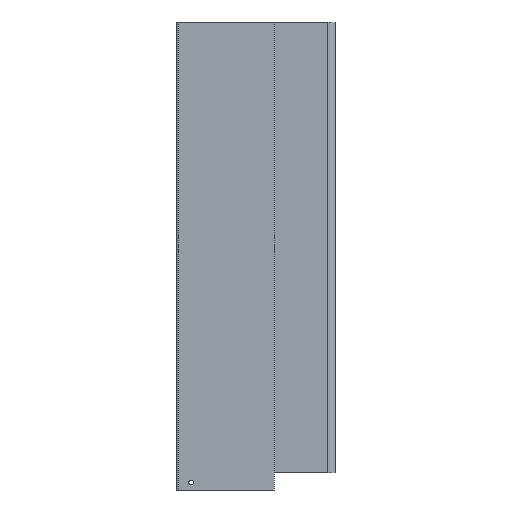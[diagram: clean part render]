
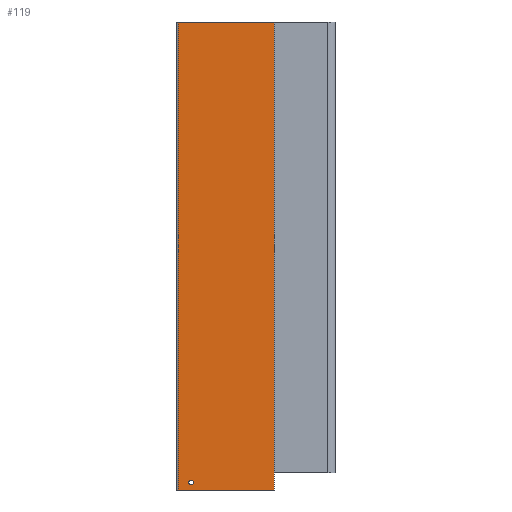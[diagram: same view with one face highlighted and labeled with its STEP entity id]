
A CAD part, left-side view. The second image highlights one B-rep face of the part: STEP entity #119.
In plain terms, the highlighted planar face has unit normal (-1, 0.011, 0).
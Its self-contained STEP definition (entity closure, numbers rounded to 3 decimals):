
#6 = VECTOR ( 'NONE', #257, 1000. ) ;
#27 = CARTESIAN_POINT ( 'NONE',  ( -8.015, 14.62, 0. ) ) ;
#37 = VERTEX_POINT ( 'NONE', #136 ) ;
#45 = CARTESIAN_POINT ( 'NONE',  ( -8.159, 1., -487. ) ) ;
#54 = LINE ( 'NONE', #82, #755 ) ;
#61 = ORIENTED_EDGE ( 'NONE', *, *, #730, .F. ) ;
#62 = ORIENTED_EDGE ( 'NONE', *, *, #461, .F. ) ;
#73 = ORIENTED_EDGE ( 'NONE', *, *, #329, .F. ) ;
#76 = VERTEX_POINT ( 'NONE', #448 ) ;
#82 = CARTESIAN_POINT ( 'NONE',  ( -8.015, 14.62, 0. ) ) ;
#104 =( BOUNDED_CURVE ( )  B_SPLINE_CURVE ( 3, ( #786, #572, #446, #45 ),
 .UNSPECIFIED., .F., .T. ) 
 B_SPLINE_CURVE_WITH_KNOTS ( ( 4, 4 ),
 ( 1.571, 4.712 ),
 .UNSPECIFIED. ) 
 CURVE ( )  GEOMETRIC_REPRESENTATION_ITEM ( )  RATIONAL_B_SPLINE_CURVE ( ( 1., 0.333, 0.333, 1. ) ) 
 REPRESENTATION_ITEM ( '' )  );
#119 = ADVANCED_FACE ( 'NONE', ( #574, #430 ), #529, .F. ) ;
#136 = CARTESIAN_POINT ( 'NONE',  ( -8.015, 14.62, -497.5 ) ) ;
#152 = AXIS2_PLACEMENT_3D ( 'NONE', #277, #862, #607 ) ;
#164 = CARTESIAN_POINT ( 'NONE',  ( -8.159, 1., -487. ) ) ;
#179 = CARTESIAN_POINT ( 'NONE',  ( -8.159, 1., -487. ) ) ;
#180 = CARTESIAN_POINT ( 'NONE',  ( -8.106, 6., -492. ) ) ;
#219 = EDGE_LOOP ( 'NONE', ( #535, #62, #73, #694 ) ) ;
#222 = VECTOR ( 'NONE', #437, 1000. ) ;
#247 = EDGE_CURVE ( 'NONE', #76, #285, #683, .T. ) ;
#257 = DIRECTION ( 'NONE',  ( 0., 0., 1. ) ) ;
#258 = EDGE_LOOP ( 'NONE', ( #61, #703 ) ) ;
#277 = CARTESIAN_POINT ( 'NONE',  ( -8.015, 14.62, -649.403 ) ) ;
#285 = VERTEX_POINT ( 'NONE', #810 ) ;
#329 = EDGE_CURVE ( 'NONE', #37, #549, #635, .T. ) ;
#430 = FACE_OUTER_BOUND ( 'NONE', #219, .T. ) ;
#437 = DIRECTION ( 'NONE',  ( 0.011, 1., 0. ) ) ;
#446 = CARTESIAN_POINT ( 'NONE',  ( -8.213, -4., -487. ) ) ;
#448 = CARTESIAN_POINT ( 'NONE',  ( -9.1, -87.495, -497.5 ) ) ;
#457 = VECTOR ( 'NONE', #532, 1000. ) ;
#461 = EDGE_CURVE ( 'NONE', #549, #285, #54, .T. ) ;
#469 = VERTEX_POINT ( 'NONE', #547 ) ;
#484 = DIRECTION ( 'NONE',  ( -0.011, -1., 0. ) ) ;
#502 =( BOUNDED_CURVE ( )  B_SPLINE_CURVE ( 3, ( #179, #510, #180, #650 ),
 .UNSPECIFIED., .F., .F. ) 
 B_SPLINE_CURVE_WITH_KNOTS ( ( 4, 4 ),
 ( 4.712, 7.854 ),
 .UNSPECIFIED. ) 
 CURVE ( )  GEOMETRIC_REPRESENTATION_ITEM ( )  RATIONAL_B_SPLINE_CURVE ( ( 1., 0.333, 0.333, 1. ) ) 
 REPRESENTATION_ITEM ( '' )  );
#510 = CARTESIAN_POINT ( 'NONE',  ( -8.106, 6., -487. ) ) ;
#529 = PLANE ( 'NONE',  #152 ) ;
#532 = DIRECTION ( 'NONE',  ( 0., 0., 1. ) ) ;
#535 = ORIENTED_EDGE ( 'NONE', *, *, #247, .T. ) ;
#547 = CARTESIAN_POINT ( 'NONE',  ( -8.159, 1., -492. ) ) ;
#549 = VERTEX_POINT ( 'NONE', #27 ) ;
#558 = VERTEX_POINT ( 'NONE', #164 ) ;
#565 = CARTESIAN_POINT ( 'NONE',  ( -8.015, 14.62, -497.5 ) ) ;
#571 = LINE ( 'NONE', #565, #222 ) ;
#572 = CARTESIAN_POINT ( 'NONE',  ( -8.213, -4., -492. ) ) ;
#574 = FACE_BOUND ( 'NONE', #258, .T. ) ;
#598 = CARTESIAN_POINT ( 'NONE',  ( -8.015, 14.62, -649.403 ) ) ;
#607 = DIRECTION ( 'NONE',  ( -0.011, -1., 0. ) ) ;
#635 = LINE ( 'NONE', #598, #457 ) ;
#650 = CARTESIAN_POINT ( 'NONE',  ( -8.159, 1., -492. ) ) ;
#669 = CARTESIAN_POINT ( 'NONE',  ( -9.1, -87.495, -649.403 ) ) ;
#683 = LINE ( 'NONE', #669, #6 ) ;
#688 = EDGE_CURVE ( 'NONE', #76, #37, #571, .T. ) ;
#694 = ORIENTED_EDGE ( 'NONE', *, *, #688, .F. ) ;
#703 = ORIENTED_EDGE ( 'NONE', *, *, #734, .F. ) ;
#730 = EDGE_CURVE ( 'NONE', #558, #469, #502, .T. ) ;
#734 = EDGE_CURVE ( 'NONE', #469, #558, #104, .T. ) ;
#755 = VECTOR ( 'NONE', #484, 1000. ) ;
#786 = CARTESIAN_POINT ( 'NONE',  ( -8.159, 1., -492. ) ) ;
#810 = CARTESIAN_POINT ( 'NONE',  ( -9.1, -87.495, 0. ) ) ;
#862 = DIRECTION ( 'NONE',  ( 1., -0.011, 0. ) ) ;
